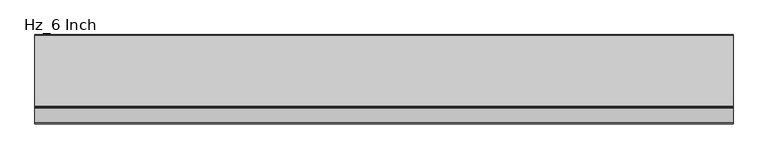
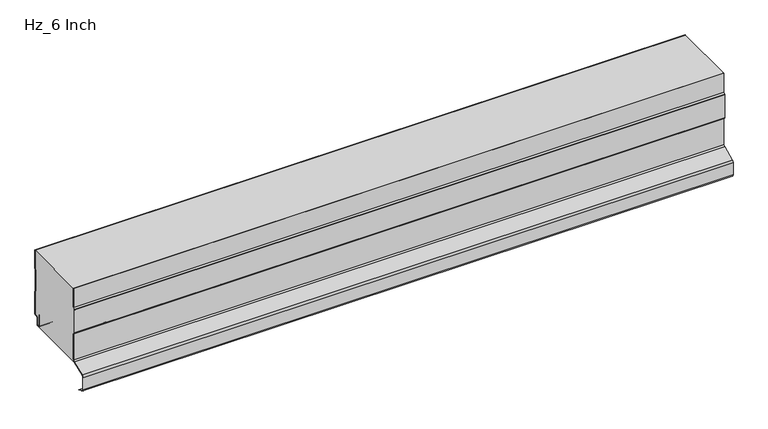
"""IFC4 building model written with IfcOpenShell, lengths in millimetres: plate geometry, AWIP_R18_CP_HR3_Hz_Roof Panel : Hz_6 Inch."""

from ifc_helpers import new_model, si_unit, point, frame, frame_2d, origin, place, context, project, spatial, polyline, circle_curve, trimmed, segment, composite_curve, outline, extrude, source, transform, mapped, element, save
from ifc_brep_helpers import plane_surface, cylinder_surface, revolved_surface, advanced_brep


def hz_6_inch_f190b957(model_context):
    return source(origin(), model_context, "Body", "SolidModel", [
        extrude(outline(composite_curve([segment(polyline([(-0.8, 161.5426774), (-0.8, 203.2), (0.0, 203.2), (0.0, 161.5426774)]), True, "CONTINUOUS"), segment(trimmed(circle_curve(frame_2d((-3.2, 161.5426774)), 3.2), [point((0.0, 161.5426774))], [point((-0.2624164, 160.2735823))], False, "CARTESIAN"), True, "CONTINUOUS"), segment(polyline([(-0.2624164, 160.2735823), (-1.2949872, 157.8834831)]), True, "CONTINUOUS"), segment(trimmed(circle_curve(frame_2d((1.0, 156.8920026)), 2.5), [point((-1.2949872, 157.8834831))], [point((-1.5, 156.8920026))], True, "CARTESIAN"), True, "CONTINUOUS"), segment(polyline([(-1.5, 156.8920026), (-1.5, 108.5079974)]), True, "CONTINUOUS"), segment(trimmed(circle_curve(frame_2d((1.0, 108.5079974)), 2.5), [point((-1.5, 108.5079974))], [point((-1.2949872, 107.5165169))], True, "CARTESIAN"), True, "CONTINUOUS"), segment(polyline([(-1.2949872, 107.5165169), (-0.2624164, 105.1264177)]), True, "CONTINUOUS"), segment(trimmed(circle_curve(frame_2d((-3.2, 103.8573226)), 3.2), [point((-0.2624164, 105.1264177))], [point((0.0, 103.8573226))], False, "CARTESIAN"), True, "CONTINUOUS"), segment(polyline([(0.0, 103.8573226), (0.0, 54.1)]), True, "CONTINUOUS"), segment(trimmed(circle_curve(frame_2d((-3.0, 54.1)), 3.0), [point((0.0, 54.1))], [point((-3.0, 51.1))], False, "CARTESIAN"), True, "CONTINUOUS"), segment(polyline([(-3.0, 51.1), (-5.0, 51.1)]), True, "CONTINUOUS"), segment(trimmed(circle_curve(frame_2d((-5.0, 47.1)), 4.0), [point((-5.0, 51.1))], [point((-9.0, 47.1))], True, "CARTESIAN"), True, "CONTINUOUS"), segment(polyline([(-9.0, 47.1), (-9.0, 33.5841899)]), True, "CONTINUOUS"), segment(trimmed(circle_curve(frame_2d((-12.0, 33.5841899)), 3.0), [point((-9.0, 33.5841899))], [point((-12.0, 30.5841899))], False, "CARTESIAN"), True, "CONTINUOUS"), segment(polyline([(-12.0, 30.5841899), (-14.0, 30.5841899)]), True, "CONTINUOUS"), segment(trimmed(circle_curve(frame_2d((-14.0, 33.5841899)), 3.0), [point((-14.0, 30.5841899))], [point((-17.0, 33.5841899))], False, "CARTESIAN"), True, "CONTINUOUS"), segment(polyline([(-17.0, 33.5841899), (-17.0, 59.5252318), (-16.2, 59.5252318), (-16.2, 33.5841899)]), True, "CONTINUOUS"), segment(trimmed(circle_curve(frame_2d((-14.0, 33.5841899)), 2.2), [point((-16.2, 33.5841899))], [point((-14.0, 31.3841899))], True, "CARTESIAN"), True, "CONTINUOUS"), segment(polyline([(-14.0, 31.3841899), (-12.0, 31.3841899)]), True, "CONTINUOUS"), segment(trimmed(circle_curve(frame_2d((-12.0, 33.5841899)), 2.2), [point((-12.0, 31.3841899))], [point((-9.8, 33.5841899))], True, "CARTESIAN"), True, "CONTINUOUS"), segment(polyline([(-9.8, 33.5841899), (-9.8, 47.1)]), True, "CONTINUOUS"), segment(trimmed(circle_curve(frame_2d((-5.0, 47.1)), 4.8), [point((-9.8, 47.1))], [point((-5.0, 51.9))], False, "CARTESIAN"), True, "CONTINUOUS"), segment(polyline([(-5.0, 51.9), (-3.0, 51.9)]), True, "CONTINUOUS"), segment(trimmed(circle_curve(frame_2d((-3.0, 54.1)), 2.2), [point((-3.0, 51.9))], [point((-0.8, 54.1))], True, "CARTESIAN"), True, "CONTINUOUS"), segment(polyline([(-0.8, 54.1), (-0.8, 103.8573226)]), True, "CONTINUOUS"), segment(trimmed(circle_curve(frame_2d((-3.2, 103.8573226)), 2.4), [point((-0.8, 103.8573226))], [point((-0.9968123, 104.8091439))], True, "CARTESIAN"), True, "CONTINUOUS"), segment(polyline([(-0.9968123, 104.8091439), (-2.0293831, 107.1992431)]), True, "CONTINUOUS"), segment(trimmed(circle_curve(frame_2d((1.0, 108.5079974)), 3.3), [point((-2.0293831, 107.1992431))], [point((-2.3, 108.5079974))], False, "CARTESIAN"), True, "CONTINUOUS"), segment(polyline([(-2.3, 108.5079974), (-2.3, 156.8920026)]), True, "CONTINUOUS"), segment(trimmed(circle_curve(frame_2d((1.0, 156.8920026)), 3.3), [point((-2.3, 156.8920026))], [point((-2.0293831, 158.2007569))], False, "CARTESIAN"), True, "CONTINUOUS"), segment(polyline([(-2.0293831, 158.2007569), (-0.9968123, 160.5908561)]), True, "CONTINUOUS"), segment(trimmed(circle_curve(frame_2d((-3.2, 161.5426774)), 2.4), [point((-0.9968123, 160.5908561))], [point((-0.8, 161.5426774))], True, "CARTESIAN"), True, "CONTINUOUS")], self_intersect=False)), frame((-723.9042608, 0.0, 0.0), z_axis=(1.0, 0.0, 0.0), x_axis=(0.0, 1.0, 0.0)), (0.0, 0.0, 1.0), 1447.8085217),
        extrude(outline(composite_curve([segment(trimmed(circle_curve(frame_2d((-150.1158802, 96.0266872)), 1.3), [point((-149.0621793, 96.788077))], [point((-148.8158802, 96.0266872))], False, "CARTESIAN"), True, "CONTINUOUS"), segment(polyline([(-148.8158802, 96.0266872), (-148.8158802, 35.2427703)]), True, "CONTINUOUS"), segment(trimmed(circle_curve(frame_2d((-153.6158801, 35.2427703)), 4.7999999), [point((-148.8158802, 35.2427703))], [point((-151.740401, 30.8243343))], False, "CARTESIAN"), True, "CONTINUOUS"), segment(polyline([(-151.740401, 30.8243343), (-181.7569246, 18.0833189)]), True, "CONTINUOUS"), segment(trimmed(circle_curve(frame_2d((-180.1158804, 14.2171873)), 4.2), [point((-181.7569246, 18.0833189))], [point((-184.3158804, 14.2171873))], True, "CARTESIAN"), True, "CONTINUOUS"), segment(polyline([(-184.3158804, 14.2171873), (-184.3158804, -14.1639048)]), True, "CONTINUOUS"), segment(trimmed(circle_curve(frame_2d((-180.1158804, -14.1639048)), 4.2), [point((-184.3158804, -14.1639048))], [point((-181.7569214, -18.0300378))], True, "CARTESIAN"), True, "CONTINUOUS"), segment(polyline([(-181.7569214, -18.0300378), (-169.154669, -23.3792623), (-169.4672482, -24.1156686), (-182.0695006, -18.7664441)]), True, "CONTINUOUS"), segment(trimmed(circle_curve(frame_2d((-180.1158804, -14.1639048)), 5.0), [point((-182.0695006, -18.7664441))], [point((-185.1158804, -14.1639048))], False, "CARTESIAN"), True, "CONTINUOUS"), segment(polyline([(-185.1158804, -14.1639048), (-185.1158804, 14.2171873)]), True, "CONTINUOUS"), segment(trimmed(circle_curve(frame_2d((-180.1158804, 14.2171873)), 5.0), [point((-185.1158804, 14.2171873))], [point((-182.0695045, 18.8197249))], False, "CARTESIAN"), True, "CONTINUOUS"), segment(polyline([(-182.0695045, 18.8197249), (-152.0529809, 31.5607405)]), True, "CONTINUOUS"), segment(trimmed(circle_curve(frame_2d((-153.6158801, 35.2427703)), 3.9999997), [point((-152.0529809, 31.5607405))], [point((-149.6158804, 35.2427703))], True, "CARTESIAN"), True, "CONTINUOUS"), segment(polyline([(-149.6158804, 35.2427703), (-149.6158804, 96.1884306), (-152.1158081, 99.6481249)]), True, "CONTINUOUS"), segment(trimmed(circle_curve(frame_2d((-150.8999994, 100.5266516)), 1.4999999), [point((-152.1158081, 99.6481249))], [point((-152.3999994, 100.5266516))], False, "CARTESIAN"), True, "CONTINUOUS"), segment(polyline([(-152.3999994, 100.5266516), (-152.3999994, 154.2756802)]), True, "CONTINUOUS"), segment(trimmed(circle_curve(frame_2d((-150.8999997, 154.2766516)), 1.5), [point((-152.3999994, 154.2756802))], [point((-152.1158084, 155.1551783))], False, "CARTESIAN"), True, "CONTINUOUS"), segment(polyline([(-152.1158084, 155.1551783), (-149.6158803, 158.6148732), (-149.6158803, 203.2), (-148.8158802, 203.2), (-148.8158802, 158.7766163)]), True, "CONTINUOUS"), segment(trimmed(circle_curve(frame_2d((-150.1158802, 158.7766163)), 1.3), [point((-148.8158802, 158.7766163))], [point((-149.0621793, 158.0152264))], False, "CARTESIAN"), True, "CONTINUOUS"), segment(polyline([(-149.0621793, 158.0152264), (-151.5999997, 154.5030919), (-151.5999997, 100.3002117), (-149.0621793, 96.788077)]), True, "CONTINUOUS")], self_intersect=False)), frame((-723.9042608, 0.0, 0.0), z_axis=(1.0, 0.0, 0.0), x_axis=(0.0, 1.0, 0.0)), (0.0, 0.0, 1.0), 1447.8085217),
        advanced_brep(
        [(-723.9042608, -148.8158805, 35.2427703), (-723.9042608, -148.8158805, 96.0266872), (-723.9042608, -149.0621797, 96.788077), (-723.9042608, -151.6, 100.3002117), (-723.9042608, -151.6, 154.5030919), (-723.9042608, -149.0621797, 158.0152264), (-723.9042608, -148.8158805, 158.7766163), (-723.9042608, -148.8158805, 203.2), (-723.9042608, -0.8, 203.2), (-723.9042608, -0.8, 161.5426774), (-723.9042608, -0.9968123, 160.5908561), (-723.9042608, -2.0293831, 158.2007569), (-723.9042608, -2.3, 156.8920026), (-723.9042608, -2.3, 108.5079974), (-723.9042608, -2.0293831, 107.1992431), (-723.9042608, -0.9968123, 104.8091439), (-723.9042608, -0.8, 103.8573226), (-723.9042608, -0.8, 54.1), (-723.9042608, -3.0, 51.9), (-723.9042608, -5.0, 51.9), (-723.9042608, -9.8, 47.1), (-723.9042608, -9.8, 33.5841899), (-723.9042608, -12.0, 31.3841899), (-723.9042608, -14.0, 31.3841899), (-723.9042608, -16.2, 33.5841899), (-723.9042608, -16.2, 59.5252318), (-723.9042608, -17.0, 59.5252318), (-723.9042608, -17.0, 33.5841899), (-723.9042608, -14.0, 30.5841899), (-723.9042608, -152.5298575, 30.5672433), (723.9042608, -148.8158805, 35.2427703), (723.9042608, -152.5298575, 30.5672433), (723.9042608, -14.0, 30.5672433), (723.9042608, -17.0, 33.5841899), (723.9042608, -17.0, 59.5252318), (723.9042608, -16.2, 59.5252318), (723.9042608, -16.2, 33.5841899), (723.9042608, -14.0, 31.3841899), (723.9042608, -12.0, 31.3841899), (723.9042608, -9.8, 33.5841899), (723.9042608, -9.8, 47.1), (723.9042608, -5.0, 51.9), (723.9042608, -3.0, 51.9), (723.9042608, -0.8, 54.1), (723.9042608, -0.8, 103.8573226), (723.9042608, -0.9968123, 104.8091439), (723.9042608, -2.0293831, 107.1992431), (723.9042608, -2.3, 108.5079974), (723.9042608, -2.3, 156.8920026), (723.9042608, -2.0293831, 158.2007569), (723.9042608, -0.9968123, 160.5908561), (723.9042608, -0.8, 161.5426774), (723.9042608, -0.8, 203.2), (723.9042608, -148.8158805, 203.2), (723.9042608, -148.8158805, 158.7766163), (723.9042608, -149.0621797, 158.0152264), (723.9042608, -151.6, 154.5030919), (723.9042608, -151.6, 100.3002117), (723.9042608, -149.0621797, 96.788077), (723.9042608, -148.8158805, 96.0266872)],
        [
            (0, 1),
            (1, 2, circle_curve(frame((-723.9042608, -150.1158805, 96.0266872), z_axis=(1.0, 0.0, 0.0), x_axis=(0.0, -1.0, 0.0)), 1.3)),
            (2, 3),
            (3, 4),
            (4, 5),
            (5, 6, circle_curve(frame((-723.9042608, -150.1158805, 158.7766163), z_axis=(1.0, 0.0, 0.0), x_axis=(0.0, -1.0, 0.0)), 1.3)),
            (6, 7),
            (7, 8),
            (8, 9),
            (9, 10, circle_curve(frame((-723.9042608, -3.2, 161.5426774), z_axis=(-1.0, 0.0, 0.0), x_axis=(0.0, -1.0, 0.0)), 2.4)),
            (10, 11),
            (11, 12, circle_curve(frame((-723.9042608, 1.0, 156.8920026), z_axis=(1.0, 0.0, 0.0), x_axis=(0.0, -1.0, 0.0)), 3.3)),
            (12, 13),
            (13, 14, circle_curve(frame((-723.9042608, 1.0, 108.5079974), z_axis=(1.0, 0.0, 0.0), x_axis=(0.0, -1.0, 0.0)), 3.3)),
            (14, 15),
            (15, 16, circle_curve(frame((-723.9042608, -3.2, 103.8573226), z_axis=(-1.0, 0.0, 0.0), x_axis=(0.0, -1.0, 0.0)), 2.4)),
            (16, 17),
            (17, 18, circle_curve(frame((-723.9042608, -3.0, 54.1), z_axis=(-1.0, 0.0, 0.0), x_axis=(0.0, -1.0, 0.0)), 2.2)),
            (18, 19),
            (19, 20, circle_curve(frame((-723.9042608, -5.0, 47.1), z_axis=(1.0, 0.0, 0.0), x_axis=(0.0, -1.0, 0.0)), 4.8)),
            (20, 21),
            (21, 22, circle_curve(frame((-723.9042608, -12.0, 33.5841899), z_axis=(-1.0, 0.0, 0.0), x_axis=(0.0, -1.0, 0.0)), 2.2)),
            (22, 23),
            (23, 24, circle_curve(frame((-723.9042608, -14.0, 33.5841899), z_axis=(-1.0, 0.0, 0.0), x_axis=(0.0, -1.0, 0.0)), 2.2)),
            (24, 25),
            (25, 26),
            (26, 27),
            (27, 28, circle_curve(frame((-723.9042608, -14.0, 33.5841899), z_axis=(1.0, 0.0, 0.0), x_axis=(0.0, -1.0, 0.0)), 3.0)),
            (28, 29),
            (29, 0, circle_curve(frame((-723.9042608, -153.6158804, 35.2427703), z_axis=(1.0, 0.0, 0.0), x_axis=(0.0, -1.0, 0.0)), 4.7999999)),
            (30, 31, circle_curve(frame((723.9042608, -153.6158804, 35.2427703), z_axis=(-1.0, 0.0, 0.0), x_axis=(0.0, -1.0, 0.0)), 4.7999999)),
            (31, 32),
            (32, 33, circle_curve(frame((723.9042608, -14.0, 33.5841899), z_axis=(-1.0, 0.0, 0.0), x_axis=(0.0, -1.0, 0.0)), 3.0)),
            (33, 34),
            (34, 35),
            (35, 36),
            (36, 37, circle_curve(frame((723.9042608, -14.0, 33.5841899), z_axis=(1.0, 0.0, 0.0), x_axis=(0.0, -1.0, 0.0)), 2.2)),
            (37, 38),
            (38, 39, circle_curve(frame((723.9042608, -12.0, 33.5841899), z_axis=(1.0, 0.0, 0.0), x_axis=(0.0, -1.0, 0.0)), 2.2)),
            (39, 40),
            (40, 41, circle_curve(frame((723.9042608, -5.0, 47.1), z_axis=(-1.0, 0.0, 0.0), x_axis=(0.0, -1.0, 0.0)), 4.8)),
            (41, 42),
            (42, 43, circle_curve(frame((723.9042608, -3.0, 54.1), z_axis=(1.0, 0.0, 0.0), x_axis=(0.0, -1.0, 0.0)), 2.2)),
            (43, 44),
            (44, 45, circle_curve(frame((723.9042608, -3.2, 103.8573226), z_axis=(1.0, 0.0, 0.0), x_axis=(0.0, -1.0, 0.0)), 2.4)),
            (45, 46),
            (46, 47, circle_curve(frame((723.9042608, 1.0, 108.5079974), z_axis=(-1.0, 0.0, 0.0), x_axis=(0.0, -1.0, 0.0)), 3.3)),
            (47, 48),
            (48, 49, circle_curve(frame((723.9042608, 1.0, 156.8920026), z_axis=(-1.0, 0.0, 0.0), x_axis=(0.0, -1.0, 0.0)), 3.3)),
            (49, 50),
            (50, 51, circle_curve(frame((723.9042608, -3.2, 161.5426774), z_axis=(1.0, 0.0, 0.0), x_axis=(0.0, -1.0, 0.0)), 2.4)),
            (51, 52),
            (52, 53),
            (53, 54),
            (54, 55, circle_curve(frame((723.9042608, -150.1158805, 158.7766163), z_axis=(-1.0, 0.0, 0.0), x_axis=(0.0, -1.0, 0.0)), 1.3)),
            (55, 56),
            (56, 57),
            (57, 58),
            (58, 59, circle_curve(frame((723.9042608, -150.1158805, 96.0266872), z_axis=(-1.0, 0.0, 0.0), x_axis=(0.0, -1.0, 0.0)), 1.3)),
            (59, 30),
            (7, 53),
            (52, 8),
            (29, 31),
            (30, 0),
            (28, 32),
            (27, 33),
            (26, 34),
            (25, 35),
            (24, 36),
            (23, 37),
            (22, 38),
            (21, 39),
            (20, 40),
            (19, 41),
            (18, 42),
            (17, 43),
            (16, 44),
            (15, 45),
            (14, 46),
            (13, 47),
            (12, 48),
            (11, 49),
            (10, 50),
            (9, 51),
            (6, 54),
            (5, 55),
            (4, 56),
            (3, 57),
            (2, 58),
            (1, 59),
        ],
        [
            plane_surface(frame((-723.9042608, -0.8, 508.0), z_axis=(-1.0, 0.0, 0.0), x_axis=(0.0, -1.0, 0.0))),
            plane_surface(frame((723.9042608, -0.8, 508.0), z_axis=(1.0, 0.0, 0.0), x_axis=(0.0, -1.0, 0.0))),
            plane_surface(frame((723.9042608, 5.0, 203.2), z_axis=(0.0, 0.0, 1.0), x_axis=(-1.0, 0.0, 0.0))),
            revolved_surface(polyline([(723.9042608, -158.4158803, 35.2427703), (-723.9042608, -158.4158803, 35.2427703)]), (-723.9042608, -153.6158804, 35.2427703), (1.0, 0.0, 0.0)),
            plane_surface(frame((-723.9042608, -152.5298575, 30.5672433), z_axis=(0.0, 0.0, -1.0), x_axis=(1.0, 0.0, 0.0))),
            revolved_surface(polyline([(723.9042608, -17.0, 33.5841899), (-723.9042608, -17.0, 33.5841899)]), (-723.9042608, -14.0, 33.5841899), (1.0, 0.0, 0.0)),
            plane_surface(frame((-723.9042608, -17.0, 33.5841899), z_axis=(0.0, 1.0, 0.0), x_axis=(1.0, 0.0, 0.0))),
            plane_surface(frame((-723.9042608, -17.0, 59.5252318), z_axis=(0.0, 0.0, -1.0), x_axis=(1.0, 0.0, 0.0))),
            plane_surface(frame((-723.9042608, -16.2, 59.5252318), z_axis=(0.0, -1.0, 0.0), x_axis=(1.0, 0.0, 0.0))),
            cylinder_surface(frame((-723.9042608, -14.0, 33.5841899), z_axis=(-1.0, 0.0, 0.0), x_axis=(0.0, -1.0, 0.0)), 2.2),
            plane_surface(frame((-723.9042608, -14.0, 31.3841899), z_axis=(0.0, 0.0, -1.0), x_axis=(1.0, 0.0, 0.0))),
            cylinder_surface(frame((-723.9042608, -12.0, 33.5841899), z_axis=(-1.0, 0.0, 0.0), x_axis=(0.0, -1.0, 0.0)), 2.2),
            plane_surface(frame((-723.9042608, -9.8, 33.5841899), z_axis=(0.0, 1.0, 0.0), x_axis=(1.0, 0.0, 0.0))),
            revolved_surface(polyline([(723.9042608, -9.8, 47.1), (-723.9042608, -9.8, 47.1)]), (-723.9042608, -5.0, 47.1), (1.0, 0.0, 0.0)),
            plane_surface(frame((-723.9042608, -5.0, 51.9), z_axis=(0.0, 0.0, -1.0), x_axis=(1.0, 0.0, 0.0))),
            cylinder_surface(frame((-723.9042608, -3.0, 54.1), z_axis=(-1.0, 0.0, 0.0), x_axis=(0.0, -1.0, 0.0)), 2.2),
            plane_surface(frame((-723.9042608, -0.8, 54.1), z_axis=(0.0, 1.0, 0.0), x_axis=(1.0, 0.0, 0.0))),
            cylinder_surface(frame((-723.9042608, -3.2, 103.8573226), z_axis=(-1.0, 0.0, 0.0), x_axis=(0.0, -1.0, 0.0)), 2.4),
            plane_surface(frame((-723.9042608, -0.9968123, 104.8091439), z_axis=(0.0, 0.9179948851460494, 0.3965922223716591), x_axis=(1.0, 0.0, 0.0))),
            revolved_surface(polyline([(723.9042608, -2.3, 108.5079974), (-723.9042608, -2.3, 108.5079974)]), (-723.9042608, 1.0, 108.5079974), (1.0, 0.0, 0.0)),
            plane_surface(frame((-723.9042608, -2.3, 108.5079974), z_axis=(0.0, 1.0, 0.0), x_axis=(1.0, 0.0, 0.0))),
            revolved_surface(polyline([(723.9042608, -2.3, 156.8920026), (-723.9042608, -2.3, 156.8920026)]), (-723.9042608, 1.0, 156.8920026), (1.0, 0.0, 0.0)),
            plane_surface(frame((-723.9042608, -2.0293831, 158.2007569), z_axis=(0.0, 0.9179948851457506, -0.39659222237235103), x_axis=(1.0, 0.0, 0.0))),
            cylinder_surface(frame((-723.9042608, -3.2, 161.5426774), z_axis=(-1.0, 0.0, 0.0), x_axis=(0.0, -1.0, 0.0)), 2.4),
            plane_surface(frame((-723.9042608, -0.8, 161.5426774), z_axis=(0.0, 1.0, 0.0), x_axis=(1.0, 0.0, 0.0))),
            plane_surface(frame((-723.9042608, -148.8158805, 219.2727425), z_axis=(0.0, -1.0, 0.0), x_axis=(1.0, 0.0, 0.0))),
            revolved_surface(polyline([(723.9042608, -151.41588050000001, 158.7766163), (-723.9042608, -151.41588050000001, 158.7766163)]), (-723.9042608, -150.1158805, 158.7766163), (1.0, 0.0, 0.0)),
            plane_surface(frame((-723.9042608, -149.0621797, 158.0152264), z_axis=(0.0, -0.8105391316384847, 0.585684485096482), x_axis=(1.0, 0.0, 0.0))),
            plane_surface(frame((-723.9042608, -151.6, 154.5030919), z_axis=(0.0, -1.0, 0.0), x_axis=(1.0, 0.0, 0.0))),
            plane_surface(frame((-723.9042608, -151.6, 100.3002117), z_axis=(0.0, -0.8105391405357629, -0.5856844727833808), x_axis=(1.0, 0.0, 0.0))),
            revolved_surface(polyline([(723.9042608, -151.41588050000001, 96.0266872), (-723.9042608, -151.41588050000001, 96.0266872)]), (-723.9042608, -150.1158805, 96.0266872), (1.0, 0.0, 0.0)),
            plane_surface(frame((-723.9042608, -148.8158805, 96.0266872), z_axis=(0.0, -1.0, 0.0), x_axis=(1.0, 0.0, 0.0))),
        ],
        [
            (0, [[1, 2, 3, 4, 5, 6, 7, 8, 9, 10, 11, 12, 13, 14, 15, 16, 17, 18, 19, 20, 21, 22, 23, 24, 25, 26, 27, 28, 29, 30]]),
            (1, [[31, 32, 33, 34, 35, 36, 37, 38, 39, 40, 41, 42, 43, 44, 45, 46, 47, 48, 49, 50, 51, 52, 53, 54, 55, 56, 57, 58, 59, 60]]),
            (2, [[61, -53, 62, -8]]),
            (3, [[63, -31, 64, -30]]),
            (4, [[65, -32, -63, -29]]),
            (5, [[66, -33, -65, -28]]),
            (6, [[67, -34, -66, -27]]),
            (7, [[68, -35, -67, -26]]),
            (8, [[69, -36, -68, -25]]),
            (9, [[70, -37, -69, -24]]),
            (10, [[71, -38, -70, -23]]),
            (11, [[72, -39, -71, -22]]),
            (12, [[73, -40, -72, -21]]),
            (13, [[74, -41, -73, -20]]),
            (14, [[75, -42, -74, -19]]),
            (15, [[76, -43, -75, -18]]),
            (16, [[77, -44, -76, -17]]),
            (17, [[78, -45, -77, -16]]),
            (18, [[79, -46, -78, -15]]),
            (19, [[80, -47, -79, -14]]),
            (20, [[81, -48, -80, -13]]),
            (21, [[82, -49, -81, -12]]),
            (22, [[83, -50, -82, -11]]),
            (23, [[84, -51, -83, -10]]),
            (24, [[-9, -62, -52, -84]]),
            (25, [[-54, -61, -7, 85]]),
            (26, [[86, -55, -85, -6]]),
            (27, [[87, -56, -86, -5]]),
            (28, [[88, -57, -87, -4]]),
            (29, [[89, -58, -88, -3]]),
            (30, [[90, -59, -89, -2]]),
            (31, [[-64, -60, -90, -1]]),
        ],
    ),
    ])


if __name__ == "__main__":
    model = new_model("IFC4")
    model_context = context("Model", 3, world=origin())
    ifc_project = project(units=[si_unit("LENGTHUNIT", "METRE", prefix="MILLI")], contexts=[model_context])
    site = spatial("IfcSite", under=ifc_project)
    building = spatial("IfcBuilding", under=site)
    placement = place(None, origin())
    hz_6_inch_shape = hz_6_inch_f190b957(model_context)
    element("IfcPlate", 1, ObjectType="AWIP_R18_CP_HR3_Hz_Roof Panel : Hz_6 Inch", at=placement, inside=building, context=model_context, shape_type="MappedRepresentation", body=[
        mapped(hz_6_inch_shape, transform((0.0, 0.0, 0.0), x_axis=(1.0, 0.0, 0.0), y_axis=(0.0, 1.0, 0.0), z_axis=(0.0, 0.0, 1.0))),
    ])
    save(model, "model.ifc")
